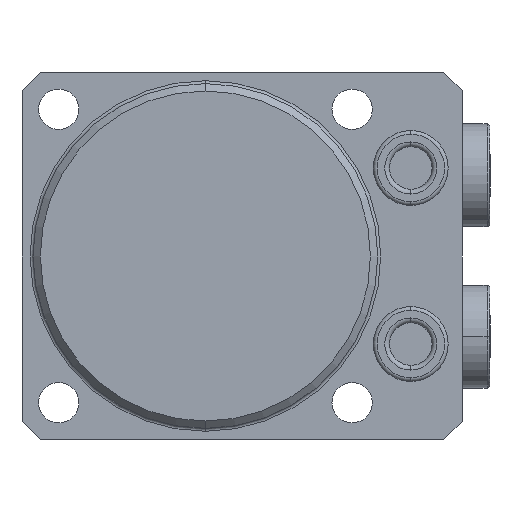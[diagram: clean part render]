
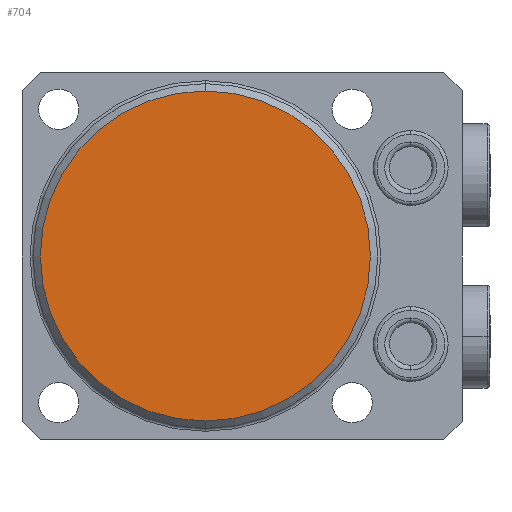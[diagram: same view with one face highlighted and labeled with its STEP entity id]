
A CAD part, front view. The second image highlights one B-rep face of the part: STEP entity #704.
In plain terms, the highlighted planar face has unit normal (0, -1, 0) as drawn and (0, 1, 0) by its records, which use the part's own axes.
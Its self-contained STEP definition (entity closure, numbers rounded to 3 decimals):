
#251=PLANE('',#4992);
#704=ADVANCED_FACE('',(#968),#251,.T.);
#968=FACE_OUTER_BOUND('',#1254,.F.);
#1254=EDGE_LOOP('',(#2910,#2911));
#2910=ORIENTED_EDGE('',*,*,#4156,.T.);
#2911=ORIENTED_EDGE('',*,*,#4061,.T.);
#3499=VERTEX_POINT('',#7651);
#3500=VERTEX_POINT('',#7652);
#4061=EDGE_CURVE('',#3499,#3500,#4468,.T.);
#4156=EDGE_CURVE('',#3500,#3499,#4488,.T.);
#4468=CIRCLE('',#4955,22.5);
#4488=CIRCLE('',#4991,22.5);
#4955=AXIS2_PLACEMENT_3D('',#7650,#6170,#6171);
#4991=AXIS2_PLACEMENT_3D('',#7921,#6291,#6292);
#4992=AXIS2_PLACEMENT_3D('',#7922,#6293,#6294);
#6170=DIRECTION('',(0.,-1.,0.));
#6171=DIRECTION('',(0.,0.,1.));
#6291=DIRECTION('',(0.,-1.,0.));
#6292=DIRECTION('',(0.,0.,1.));
#6293=DIRECTION('',(0.,1.,0.));
#6294=DIRECTION('',(0.,0.,1.));
#7650=CARTESIAN_POINT('',(0.,-39.5,0.));
#7651=CARTESIAN_POINT('',(0.,-39.5,-22.5));
#7652=CARTESIAN_POINT('',(0.,-39.5,22.5));
#7921=CARTESIAN_POINT('',(0.,-39.5,0.));
#7922=CARTESIAN_POINT('',(0.,-39.5,0.));
